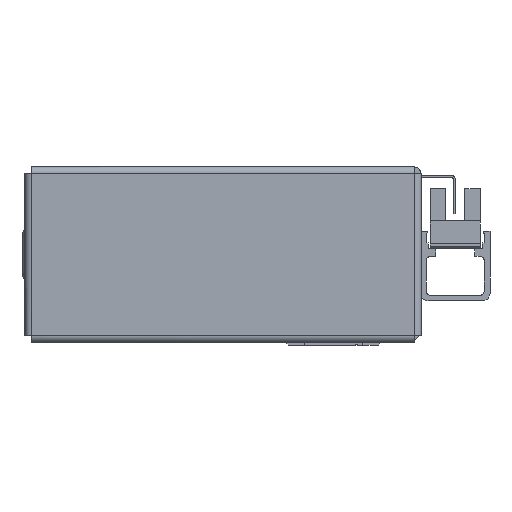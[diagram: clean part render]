
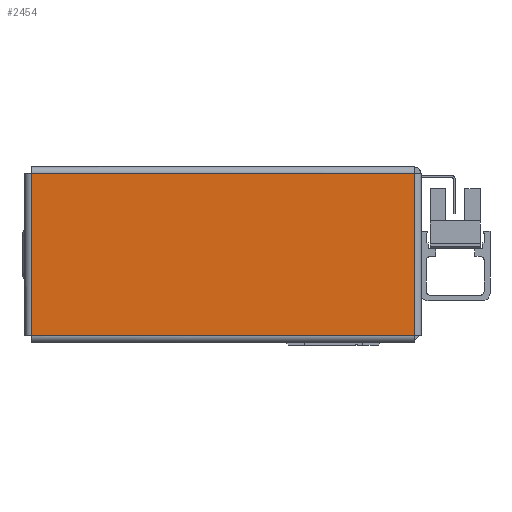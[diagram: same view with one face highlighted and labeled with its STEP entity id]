
A CAD part, left-side view. The second image highlights one B-rep face of the part: STEP entity #2454.
In plain terms, the highlighted planar face has unit normal (-1, 0, 0) as drawn and (0, 0, -1) by its records, which use the part's own axes.
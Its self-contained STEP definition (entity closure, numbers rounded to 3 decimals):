
#2454 = ADVANCED_FACE ( 'NONE', ( #30632 ), #13580, .F. ) ;
#2471 = EDGE_CURVE ( 'NONE', #14806, #15055, #30239, .T. ) ;
#2525 = EDGE_CURVE ( 'NONE', #15055, #15766, #30066, .T. ) ;
#2788 = EDGE_CURVE ( 'NONE', #15766, #16084, #28859, .T. ) ;
#2987 = EDGE_CURVE ( 'NONE', #16084, #14806, #27943, .T. ) ;
#7280 = CARTESIAN_POINT ( 'NONE',  ( 49.513, -21.013, -1. ) ) ;
#8055 = CARTESIAN_POINT ( 'NONE',  ( 0., 0., -1. ) ) ;
#8182 = DIRECTION ( 'NONE',  ( 0., 0., 1. ) ) ;
#8493 = CARTESIAN_POINT ( 'NONE',  ( 49.543, -21.013, -1. ) ) ;
#10610 = CARTESIAN_POINT ( 'NONE',  ( -49.513, 21.013, -1. ) ) ;
#12267 = CARTESIAN_POINT ( 'NONE',  ( -49.513, -21.013, -1. ) ) ;
#12962 = CARTESIAN_POINT ( 'NONE',  ( 49.513, 21.043, -1. ) ) ;
#13292 = EDGE_LOOP ( 'NONE', ( #22619, #23507, #23786, #24279 ) ) ;
#13580 = PLANE ( 'NONE',  #34055 ) ;
#13828 = DIRECTION ( 'NONE',  ( 0., 1., 0. ) ) ;
#14806 = VERTEX_POINT ( 'NONE', #12267 ) ;
#15055 = VERTEX_POINT ( 'NONE', #10610 ) ;
#15766 = VERTEX_POINT ( 'NONE', #19627 ) ;
#16084 = VERTEX_POINT ( 'NONE', #7280 ) ;
#19627 = CARTESIAN_POINT ( 'NONE',  ( 49.513, 21.013, -1. ) ) ;
#21072 = DIRECTION ( 'NONE',  ( 0., -1., 0. ) ) ;
#22619 = ORIENTED_EDGE ( 'NONE', *, *, #2471, .T. ) ;
#23507 = ORIENTED_EDGE ( 'NONE', *, *, #2525, .T. ) ;
#23786 = ORIENTED_EDGE ( 'NONE', *, *, #2788, .T. ) ;
#24279 = ORIENTED_EDGE ( 'NONE', *, *, #2987, .T. ) ;
#24589 = DIRECTION ( 'NONE',  ( -1., 0., 0. ) ) ;
#26944 = DIRECTION ( 'NONE',  ( 1., 0., 0. ) ) ;
#27390 = CARTESIAN_POINT ( 'NONE',  ( -49.543, 21.013, -1. ) ) ;
#27648 = VECTOR ( 'NONE', #24589, 1000. ) ;
#27943 = LINE ( 'NONE', #8493, #27648 ) ;
#28762 = VECTOR ( 'NONE', #21072, 1000. ) ;
#28859 = LINE ( 'NONE', #12962, #28762 ) ;
#29967 = VECTOR ( 'NONE', #32226, 1000. ) ;
#30066 = LINE ( 'NONE', #27390, #29967 ) ;
#30209 = VECTOR ( 'NONE', #13828, 1000. ) ;
#30239 = LINE ( 'NONE', #31894, #30209 ) ;
#30632 = FACE_OUTER_BOUND ( 'NONE', #13292, .T. ) ;
#31894 = CARTESIAN_POINT ( 'NONE',  ( -49.513, -21.043, -1. ) ) ;
#32226 = DIRECTION ( 'NONE',  ( 1., 0., 0. ) ) ;
#34055 = AXIS2_PLACEMENT_3D ( 'NONE', #8055, #8182, #26944 ) ;
